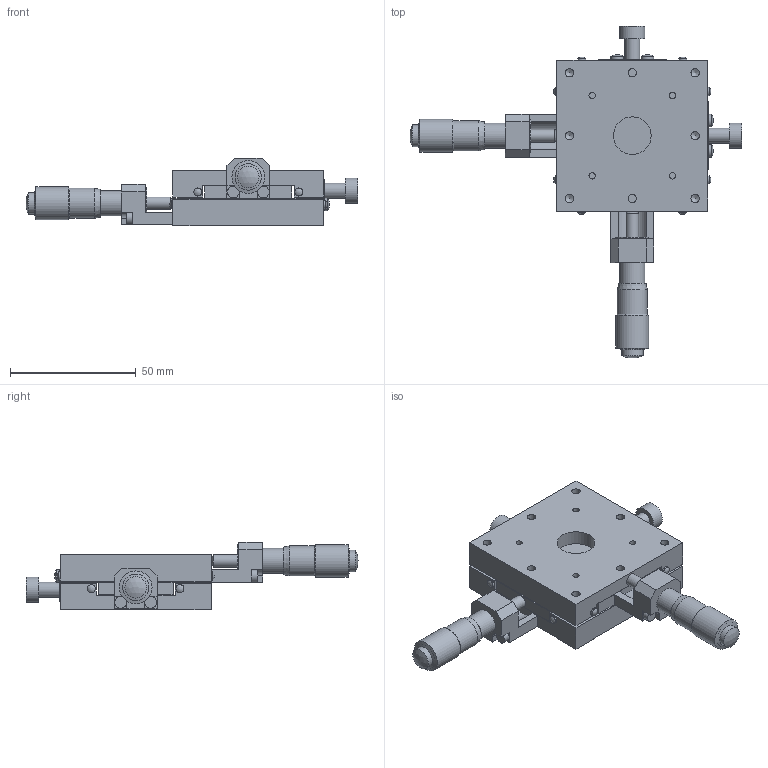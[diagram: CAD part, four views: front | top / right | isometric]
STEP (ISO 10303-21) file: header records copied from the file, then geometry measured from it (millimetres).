
FILE_DESCRIPTION( ( 'STEP AP214' ), '1' );
FILE_NAME( 'C:/Project/3D_B23-60AR-配布-070508.stp', '2007-05-08T10:43:02', ( ' ' ), ( ' ' ), 'XStep 1.0', ' ', ' ' );
FILE_SCHEMA( ( 'automotive_design' ) );
Length unit declared in the file: millimetre
Products named in the file (5): 1; 2; 3; 4; 5
Bounding box: 132.11 x 132.11 x 27 mm (x, y, z)
Volume: 85765.9 mm3; surface area: 41436.2 mm2
Topology: 5 solids, 5 shells, 226 faces, 553 edges, 364 vertices
Faces by surface type: plane 115, cylinder 83, sphere 16, cone 12
Full cylindrical faces by diameter (mm): 2.5 x4, 3 x2, 3.2 x8, 3.3 x14, 4.5 x4, 4.7 x4, 5 x8, 6 x2, 8 x4, 8.6 x2, 10 x4, 10.5 x2, 12 x2, 13 x2, 15 x1
Entity records: 7892 total; most frequent: DIRECTION 1061, CARTESIAN_POINT 1007, ORIENTED_EDGE 876, EDGE_CURVE 438, AXIS2_PLACEMENT_3D 393, EDGE_LOOP 360, VERTEX_POINT 332, FACE_OUTER_BOUND 289
